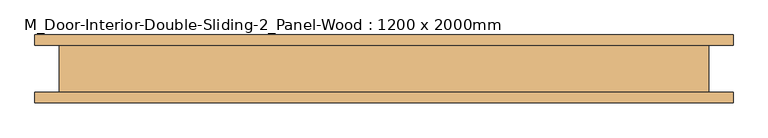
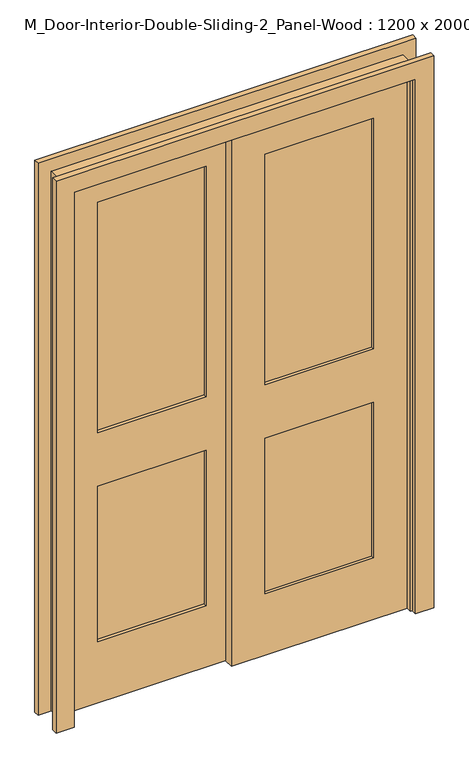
"""IFC4 building model written with IfcOpenShell, lengths in millimetres: door geometry, M_Door-Interior-Double-Sliding-2_Panel-Wood : 1200 x 2000mm."""

from ifc_helpers import new_model, si_unit, frame, origin, place, context, project, spatial, polyline, outline, extrude, source, transform, mapped, element, save


def m_door_interior_double_sliding_2_panel_wood_1200_x_2000mm_8d1b384f(model_context):
    return source(origin(), model_context, "Body", "SweptSolid", [
        extrude(outline(polyline([(480.0, -16.5083333), (94.6, -16.5083333), (94.6, -4.8416667), (480.0, -4.8416667), (480.0, -16.5083333)])), frame((0.0, 0.0, 1014.4), z_axis=(0.0, 0.0, 1.0), x_axis=(1.0, 0.0, 0.0)), (0.0, 0.0, 1.0), 865.6),
        extrude(outline(polyline([(480.0, -16.5083333), (94.6, -16.5083333), (94.6, -4.8416667), (480.0, -4.8416667), (480.0, -16.5083333)])), frame((0.0, 0.0, 230.0), z_axis=(0.0, 0.0, 1.0), x_axis=(1.0, 0.0, 0.0)), (0.0, 0.0, 1.0), 584.4),
        extrude(outline(polyline([(2000.0, -25.4), (0.0, -25.4), (0.0, 600.0), (2000.0, 600.0), (2000.0, -25.4)]), holes=[polyline([(1880.0, 94.6), (1880.0, 480.0), (1014.4, 480.0), (1014.4, 94.6), (1880.0, 94.6)]), polyline([(814.4, 94.6), (814.4, 480.0), (230.0, 480.0), (230.0, 94.6), (814.4, 94.6)])]), frame((0.0, -28.175, 0.0), z_axis=(0.0, 1.0, 0.0), x_axis=(0.0, 0.0, 1.0)), (0.0, 0.0, 1.0), 35.0),
        extrude(outline(polyline([(-94.6, 18.4916667), (-480.0, 18.4916667), (-480.0, 30.1583333), (-94.6, 30.1583333), (-94.6, 18.4916667)])), frame((0.0, 0.0, 1014.4), z_axis=(0.0, 0.0, 1.0), x_axis=(1.0, 0.0, 0.0)), (0.0, 0.0, 1.0), 865.6),
        extrude(outline(polyline([(-94.6, 18.4916667), (-480.0, 18.4916667), (-480.0, 30.1583333), (-94.6, 30.1583333), (-94.6, 18.4916667)])), frame((0.0, 0.0, 230.0), z_axis=(0.0, 0.0, 1.0), x_axis=(1.0, 0.0, 0.0)), (0.0, 0.0, 1.0), 584.4),
        extrude(outline(polyline([(2000.0, -600.0), (0.0, -600.0), (0.0, 25.4), (2000.0, 25.4), (2000.0, -600.0)]), holes=[polyline([(1880.0, -480.0), (1880.0, -94.6), (1014.4, -94.6), (1014.4, -480.0), (1880.0, -480.0)]), polyline([(814.4, -480.0), (814.4, -94.6), (230.0, -94.6), (230.0, -480.0), (814.4, -480.0)])]), frame((0.0, 6.825, 0.0), z_axis=(0.0, 1.0, 0.0), x_axis=(0.0, 0.0, 1.0)), (0.0, 0.0, 1.0), 35.0),
        extrude(outline(polyline([(0.0, 600.0), (0.0, 625.0), (2025.0, 625.0), (2025.0, -625.0), (0.0, -625.0), (0.0, -600.0), (2000.0, -600.0), (2000.0, 600.0), (0.0, 600.0)])), frame((0.0, -48.175, 0.0), z_axis=(0.0, 1.0, 0.0), x_axis=(0.0, 0.0, 1.0)), (0.0, 0.0, 1.0), 90.0),
        extrude(outline(polyline([(0.0, 606.35), (0.0, 671.35), (2071.35, 671.35), (2071.35, -671.35), (0.0, -671.35), (0.0, -606.35), (2006.35, -606.35), (2006.35, 606.35), (0.0, 606.35)])), frame((0.0, -68.175, 0.0), z_axis=(0.0, 1.0, 0.0), x_axis=(0.0, 0.0, 1.0)), (0.0, 0.0, 1.0), 20.0),
        extrude(outline(polyline([(0.0, 606.35), (0.0, 671.35), (2071.35, 671.35), (2071.35, -671.35), (0.0, -671.35), (0.0, -606.35), (2006.35, -606.35), (2006.35, 606.35), (0.0, 606.35)])), frame((0.0, 41.825, 0.0), z_axis=(0.0, 1.0, 0.0), x_axis=(0.0, 0.0, 1.0)), (0.0, 0.0, 1.0), 20.0),
    ])


if __name__ == "__main__":
    model = new_model("IFC4")
    model_context = context("Model", 3, world=origin())
    ifc_project = project(units=[si_unit("LENGTHUNIT", "METRE", prefix="MILLI")], contexts=[model_context])
    site = spatial("IfcSite", under=ifc_project)
    building = spatial("IfcBuilding", under=site)
    placement = place(None, origin())
    m_door_interior_double_sliding_2_panel_wood_1200_x_2000mm_shape = m_door_interior_double_sliding_2_panel_wood_1200_x_2000mm_8d1b384f(model_context)
    element("IfcDoor", 1, ObjectType="M_Door-Interior-Double-Sliding-2_Panel-Wood : 1200 x 2000mm", at=placement, inside=building, context=model_context, shape_type="MappedRepresentation", body=[
        mapped(m_door_interior_double_sliding_2_panel_wood_1200_x_2000mm_shape, transform((0.0, 0.0, 0.0), x_axis=(1.0, 0.0, 0.0), y_axis=(0.0, 1.0, 0.0), z_axis=(0.0, 0.0, 1.0))),
    ])
    save(model, "model.ifc")
